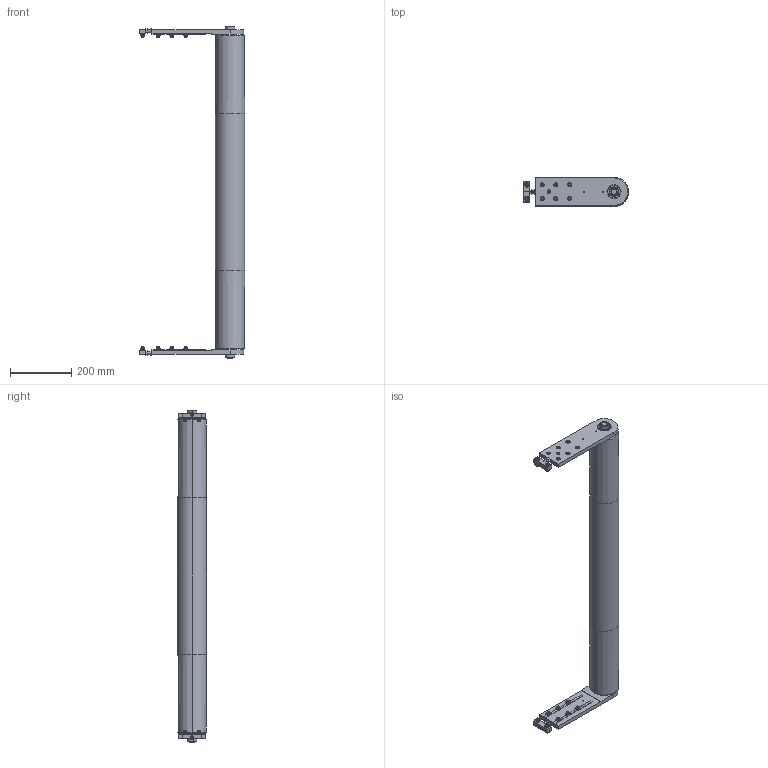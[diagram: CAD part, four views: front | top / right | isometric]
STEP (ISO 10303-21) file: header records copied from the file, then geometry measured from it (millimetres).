
FILE_DESCRIPTION (( 'STEP AP203' ), '1' );
FILE_NAME ('084.095.KI.1000.STEP', '2014-11-18T15:09:56', ( '' ), ( '' ), 'SwSTEP 2.0', 'SolidWorks 2012', '' );
FILE_SCHEMA (( 'CONFIG_CONTROL_DESIGN' ));
Length unit declared in the file: millimetre
Products named in the file (1): 084.095.KI.1000
Bounding box: 343.5 x 95 x 1085 mm (x, y, z)
Surface area: 498912.7 mm2 (no closed solid volume)
Topology: 0 solids, 71 shells, 643 faces, 2012 edges, 1402 vertices
Faces by surface type: plane 383, cylinder 136, torus 68, cone 40, bspline 12, sphere 4
Entity records: 23460 total; most frequent: CARTESIAN_POINT 5646, DIRECTION 3777, ORIENTED_EDGE 3274, EDGE_CURVE 2004, VERTEX_POINT 1398, AXIS2_PLACEMENT_3D 1361, VECTOR 1055, LINE 1055
